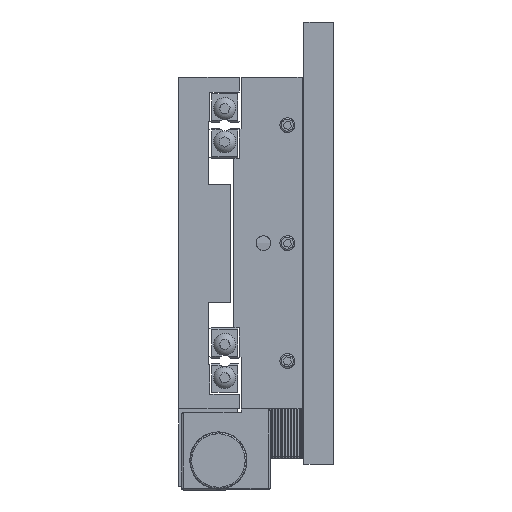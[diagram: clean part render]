
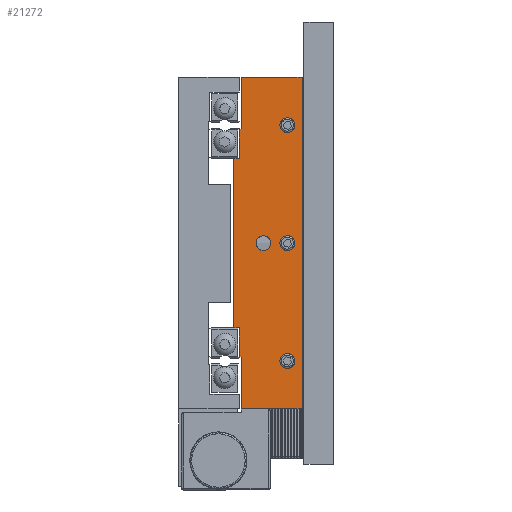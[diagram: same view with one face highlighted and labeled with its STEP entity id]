
A CAD part, left-side view. The second image highlights one B-rep face of the part: STEP entity #21272.
In plain terms, the highlighted planar face has unit normal (-1, 0, 0).
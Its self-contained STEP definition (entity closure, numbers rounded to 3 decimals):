
#1979 = AXIS2_PLACEMENT_3D ( 'NONE', #28230, #28229, #28236 ) ;
#2321 = CARTESIAN_POINT ( 'NONE',  ( -74.057, 6.97, -45. ) ) ;
#2322 = CARTESIAN_POINT ( 'NONE',  ( -74.057, -0.28, -76. ) ) ;
#2332 = DIRECTION ( 'NONE',  ( 0., 0., 1. ) ) ;
#2340 = DIRECTION ( 'NONE',  ( 0., 1., 0. ) ) ;
#2346 = CARTESIAN_POINT ( 'NONE',  ( -74.057, 7.47, -45. ) ) ;
#2357 = DIRECTION ( 'NONE',  ( 0., 0., 1. ) ) ;
#2370 = CARTESIAN_POINT ( 'NONE',  ( -74.057, -0.28, -22. ) ) ;
#2373 = DIRECTION ( 'NONE',  ( 0., 1., 0. ) ) ;
#2374 = CARTESIAN_POINT ( 'NONE',  ( -74.057, -0.28, -68. ) ) ;
#2375 = DIRECTION ( 'NONE',  ( 0., 1., 0. ) ) ;
#2389 = CARTESIAN_POINT ( 'NONE',  ( -74.057, -0.28, -14. ) ) ;
#2393 = CARTESIAN_POINT ( 'NONE',  ( -74.057, 7.47, -45. ) ) ;
#2402 = DIRECTION ( 'NONE',  ( 0., 1., 0. ) ) ;
#2404 = DIRECTION ( 'NONE',  ( 0., 0., -1. ) ) ;
#5398 = EDGE_CURVE ( 'NONE', #20505, #20662, #14611, .T. ) ;
#5404 = EDGE_CURVE ( 'NONE', #20498, #20504, #14587, .T. ) ;
#6349 = CARTESIAN_POINT ( 'NONE',  ( -74.057, 7.47, -22. ) ) ;
#6352 = CARTESIAN_POINT ( 'NONE',  ( -74.057, 7.47, -14. ) ) ;
#6405 = CARTESIAN_POINT ( 'NONE',  ( -74.057, -9.53, 0. ) ) ;
#6411 = CARTESIAN_POINT ( 'NONE',  ( -74.057, -9.53, -90. ) ) ;
#6412 = CARTESIAN_POINT ( 'NONE',  ( -74.057, 6.97, 0. ) ) ;
#6431 = CARTESIAN_POINT ( 'NONE',  ( -74.057, 7.47, -68. ) ) ;
#6435 = CARTESIAN_POINT ( 'NONE',  ( -74.057, 6.97, -76. ) ) ;
#6437 = CARTESIAN_POINT ( 'NONE',  ( -74.057, 6.97, -90. ) ) ;
#6439 = CARTESIAN_POINT ( 'NONE',  ( -74.057, 7.47, -76. ) ) ;
#6440 = CARTESIAN_POINT ( 'NONE',  ( -74.057, 8.97, -22. ) ) ;
#6441 = CARTESIAN_POINT ( 'NONE',  ( -74.057, 8.97, -68. ) ) ;
#6569 = CARTESIAN_POINT ( 'NONE',  ( -74.057, 6.97, -14. ) ) ;
#7832 = DIRECTION ( 'NONE',  ( 0., 0., -1. ) ) ;
#7846 = CARTESIAN_POINT ( 'NONE',  ( -74.057, 6.97, -45. ) ) ;
#7868 = CARTESIAN_POINT ( 'NONE',  ( -74.057, -9.53, -45. ) ) ;
#7871 = DIRECTION ( 'NONE',  ( 0., 0., -1. ) ) ;
#9794 = VERTEX_POINT ( 'NONE', #23541 ) ;
#9795 = VERTEX_POINT ( 'NONE', #23540 ) ;
#9796 = VERTEX_POINT ( 'NONE', #23539 ) ;
#9797 = VERTEX_POINT ( 'NONE', #23538 ) ;
#11687 = EDGE_CURVE ( 'NONE', #9797, #9797, #13209, .T. ) ;
#11689 = EDGE_CURVE ( 'NONE', #9796, #9796, #13214, .T. ) ;
#11693 = EDGE_CURVE ( 'NONE', #9795, #9795, #13198, .T. ) ;
#11694 = EDGE_CURVE ( 'NONE', #9794, #9794, #13192, .T. ) ;
#11696 = EDGE_CURVE ( 'NONE', #20498, #20505, #13207, .T. ) ;
#11699 = EDGE_CURVE ( 'NONE', #20504, #20530, #13194, .T. ) ;
#11701 = EDGE_CURVE ( 'NONE', #20533, #20534, #13184, .T. ) ;
#13177 = VECTOR ( 'NONE', #18582, 1000. ) ;
#13183 = VECTOR ( 'NONE', #18577, 1000. ) ;
#13184 = LINE ( 'NONE', #18578, #13177 ) ;
#13192 = CIRCLE ( 'NONE', #33767, 2. ) ;
#13194 = LINE ( 'NONE', #18546, #13183 ) ;
#13196 = VECTOR ( 'NONE', #18544, 1000. ) ;
#13198 = CIRCLE ( 'NONE', #33766, 2. ) ;
#13207 = LINE ( 'NONE', #18543, #13196 ) ;
#13209 = CIRCLE ( 'NONE', #33762, 2. ) ;
#13214 = CIRCLE ( 'NONE', #33763, 2. ) ;
#13850 = EDGE_CURVE ( 'NONE', #20530, #20528, #25037, .T. ) ;
#13859 = EDGE_CURVE ( 'NONE', #20528, #20532, #25078, .T. ) ;
#13876 = EDGE_CURVE ( 'NONE', #20532, #20524, #25215, .T. ) ;
#13889 = EDGE_CURVE ( 'NONE', #20442, #20533, #25250, .T. ) ;
#13891 = EDGE_CURVE ( 'NONE', #20524, #20534, #25200, .T. ) ;
#13915 = EDGE_CURVE ( 'NONE', #20662, #20445, #26024, .T. ) ;
#13917 = EDGE_CURVE ( 'NONE', #20445, #20442, #26018, .T. ) ;
#14581 = VECTOR ( 'NONE', #7871, 1000. ) ;
#14587 = LINE ( 'NONE', #7868, #14581 ) ;
#14611 = LINE ( 'NONE', #7846, #14623 ) ;
#14623 = VECTOR ( 'NONE', #7832, 1000. ) ;
#18490 = CARTESIAN_POINT ( 'NONE',  ( -74.057, -5.53, -77. ) ) ;
#18491 = DIRECTION ( 'NONE',  ( -1., 0., 0. ) ) ;
#18492 = DIRECTION ( 'NONE',  ( 0., 0., 1. ) ) ;
#18495 = CARTESIAN_POINT ( 'NONE',  ( -74.057, -5.53, -13. ) ) ;
#18496 = DIRECTION ( 'NONE',  ( -1., 0., 0. ) ) ;
#18497 = DIRECTION ( 'NONE',  ( 0., 0., 1. ) ) ;
#18508 = CARTESIAN_POINT ( 'NONE',  ( -74.057, -5.53, -45. ) ) ;
#18509 = DIRECTION ( 'NONE',  ( -1., 0., 0. ) ) ;
#18510 = DIRECTION ( 'NONE',  ( 0., 0., 1. ) ) ;
#18512 = CARTESIAN_POINT ( 'NONE',  ( -74.057, 0.97, -45. ) ) ;
#18513 = DIRECTION ( 'NONE',  ( -1., 0., 0. ) ) ;
#18514 = DIRECTION ( 'NONE',  ( 0., 0., 1. ) ) ;
#18543 = CARTESIAN_POINT ( 'NONE',  ( -74.057, -0.28, 0. ) ) ;
#18544 = DIRECTION ( 'NONE',  ( 0., 1., 0. ) ) ;
#18546 = CARTESIAN_POINT ( 'NONE',  ( -74.057, -0.28, -90. ) ) ;
#18577 = DIRECTION ( 'NONE',  ( 0., 1., 0. ) ) ;
#18578 = CARTESIAN_POINT ( 'NONE',  ( -74.057, 8.97, -45. ) ) ;
#18582 = DIRECTION ( 'NONE',  ( 0., 0., -1. ) ) ;
#20442 = VERTEX_POINT ( 'NONE', #6349 ) ;
#20445 = VERTEX_POINT ( 'NONE', #6352 ) ;
#20498 = VERTEX_POINT ( 'NONE', #6405 ) ;
#20504 = VERTEX_POINT ( 'NONE', #6411 ) ;
#20505 = VERTEX_POINT ( 'NONE', #6412 ) ;
#20524 = VERTEX_POINT ( 'NONE', #6431 ) ;
#20528 = VERTEX_POINT ( 'NONE', #6435 ) ;
#20530 = VERTEX_POINT ( 'NONE', #6437 ) ;
#20532 = VERTEX_POINT ( 'NONE', #6439 ) ;
#20533 = VERTEX_POINT ( 'NONE', #6440 ) ;
#20534 = VERTEX_POINT ( 'NONE', #6441 ) ;
#20662 = VERTEX_POINT ( 'NONE', #6569 ) ;
#21272 = ADVANCED_FACE ( 'NONE', ( #24864, #24858, #24863, #24859, #24861 ), #28233, .F. ) ;
#23538 = CARTESIAN_POINT ( 'NONE',  ( -74.057, -5.53, -75. ) ) ;
#23539 = CARTESIAN_POINT ( 'NONE',  ( -74.057, -5.53, -11. ) ) ;
#23540 = CARTESIAN_POINT ( 'NONE',  ( -74.057, -5.53, -43. ) ) ;
#23541 = CARTESIAN_POINT ( 'NONE',  ( -74.057, 0.97, -43. ) ) ;
#24858 = FACE_BOUND ( 'NONE', #28654, .T. ) ;
#24859 = FACE_OUTER_BOUND ( 'NONE', #28644, .T. ) ;
#24861 = FACE_BOUND ( 'NONE', #28648, .T. ) ;
#24863 = FACE_BOUND ( 'NONE', #28645, .T. ) ;
#24864 = FACE_BOUND ( 'NONE', #28655, .T. ) ;
#25037 = LINE ( 'NONE', #2321, #25132 ) ;
#25078 = LINE ( 'NONE', #2322, #25090 ) ;
#25090 = VECTOR ( 'NONE', #2340, 1000. ) ;
#25132 = VECTOR ( 'NONE', #2332, 1000. ) ;
#25200 = LINE ( 'NONE', #2374, #25202 ) ;
#25202 = VECTOR ( 'NONE', #2375, 1000. ) ;
#25204 = VECTOR ( 'NONE', #2373, 1000. ) ;
#25215 = LINE ( 'NONE', #2346, #25235 ) ;
#25235 = VECTOR ( 'NONE', #2357, 1000. ) ;
#25250 = LINE ( 'NONE', #2370, #25204 ) ;
#26014 = VECTOR ( 'NONE', #2404, 1000. ) ;
#26016 = VECTOR ( 'NONE', #2402, 1000. ) ;
#26018 = LINE ( 'NONE', #2393, #26014 ) ;
#26024 = LINE ( 'NONE', #2389, #26016 ) ;
#27221 = ORIENTED_EDGE ( 'NONE', *, *, #11689, .F. ) ;
#27222 = ORIENTED_EDGE ( 'NONE', *, *, #13850, .F. ) ;
#27223 = ORIENTED_EDGE ( 'NONE', *, *, #13859, .F. ) ;
#27224 = ORIENTED_EDGE ( 'NONE', *, *, #13876, .F. ) ;
#27225 = ORIENTED_EDGE ( 'NONE', *, *, #13891, .F. ) ;
#27226 = ORIENTED_EDGE ( 'NONE', *, *, #11701, .T. ) ;
#27227 = ORIENTED_EDGE ( 'NONE', *, *, #13889, .T. ) ;
#27228 = ORIENTED_EDGE ( 'NONE', *, *, #13917, .T. ) ;
#27229 = ORIENTED_EDGE ( 'NONE', *, *, #13915, .T. ) ;
#27230 = ORIENTED_EDGE ( 'NONE', *, *, #5398, .T. ) ;
#27231 = ORIENTED_EDGE ( 'NONE', *, *, #11696, .T. ) ;
#27232 = ORIENTED_EDGE ( 'NONE', *, *, #5404, .F. ) ;
#27233 = ORIENTED_EDGE ( 'NONE', *, *, #11699, .F. ) ;
#27234 = ORIENTED_EDGE ( 'NONE', *, *, #11687, .F. ) ;
#27235 = ORIENTED_EDGE ( 'NONE', *, *, #11693, .F. ) ;
#27236 = ORIENTED_EDGE ( 'NONE', *, *, #11694, .F. ) ;
#28229 = DIRECTION ( 'NONE',  ( 1., 0., 0. ) ) ;
#28230 = CARTESIAN_POINT ( 'NONE',  ( -74.057, -0.28, -45. ) ) ;
#28233 = PLANE ( 'NONE',  #1979 ) ;
#28236 = DIRECTION ( 'NONE',  ( 0., 0., -1. ) ) ;
#28644 = EDGE_LOOP ( 'NONE', ( #27233, #27232, #27231, #27230, #27229, #27228, #27227, #27226, #27225, #27224, #27223, #27222 ) ) ;
#28645 = EDGE_LOOP ( 'NONE', ( #27234 ) ) ;
#28648 = EDGE_LOOP ( 'NONE', ( #27221 ) ) ;
#28654 = EDGE_LOOP ( 'NONE', ( #27235 ) ) ;
#28655 = EDGE_LOOP ( 'NONE', ( #27236 ) ) ;
#33762 = AXIS2_PLACEMENT_3D ( 'NONE', #18490, #18491, #18492 ) ;
#33763 = AXIS2_PLACEMENT_3D ( 'NONE', #18495, #18496, #18497 ) ;
#33766 = AXIS2_PLACEMENT_3D ( 'NONE', #18508, #18509, #18510 ) ;
#33767 = AXIS2_PLACEMENT_3D ( 'NONE', #18512, #18513, #18514 ) ;
